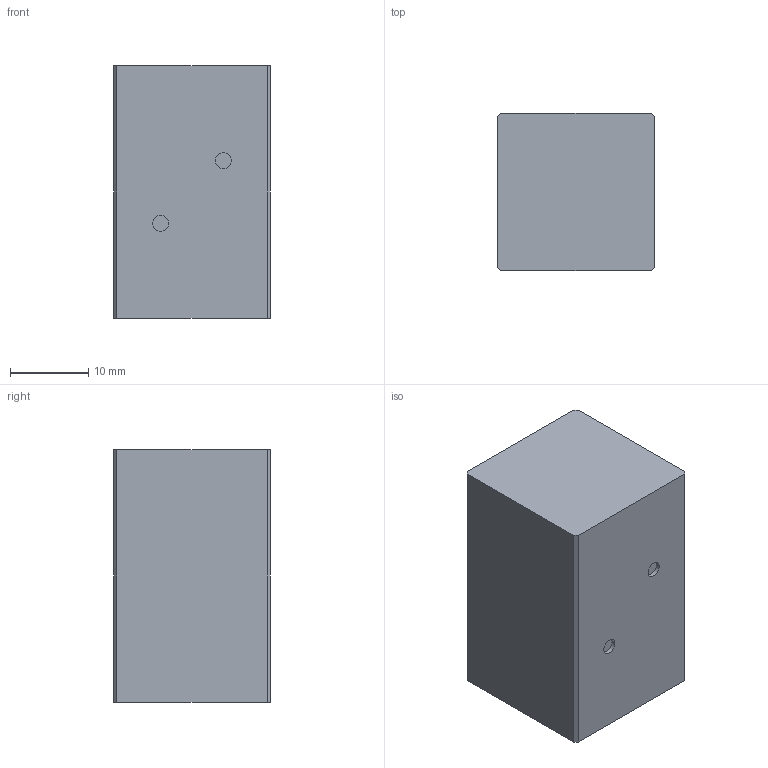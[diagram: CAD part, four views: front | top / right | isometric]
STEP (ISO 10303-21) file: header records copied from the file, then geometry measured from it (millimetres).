
FILE_DESCRIPTION(('Open CASCADE Model'),'2;1');
FILE_NAME('Open CASCADE Shape Model','2026-08-23T08:04:37',('Author'),( 'Open CASCADE'),'Open CASCADE STEP processor 7.9','Open CASCADE 7.9' ,'Unknown');
FILE_SCHEMA(('AUTOMOTIVE_DESIGN { 1 0 10303 214 1 1 1 1 }'));
Length unit declared in the file: millimetre
Products named in the file (2): =>[0:1:1:2]; COMPOUND
Assembly tree (1 placements, depth 2):
  =>[0:1:1:2]
    COMPOUND
Bounding box: 20 x 20 x 32.25 mm (x, y, z)
Volume: 12886.5 mm3; surface area: 3355.4 mm2
Topology: 1 solids, 1 shells, 14 faces, 30 edges, 20 vertices
Faces by surface type: plane 12, cylinder 2
Full cylindrical faces by diameter (mm): 2 x2
Entity records: 818 total; most frequent: CARTESIAN_POINT 138, DIRECTION 124, LINE 82, VECTOR 82, ORIENTED_EDGE 60, PCURVE 60, DEFINITIONAL_REPRESENTATION 60, EDGE_CURVE 30
